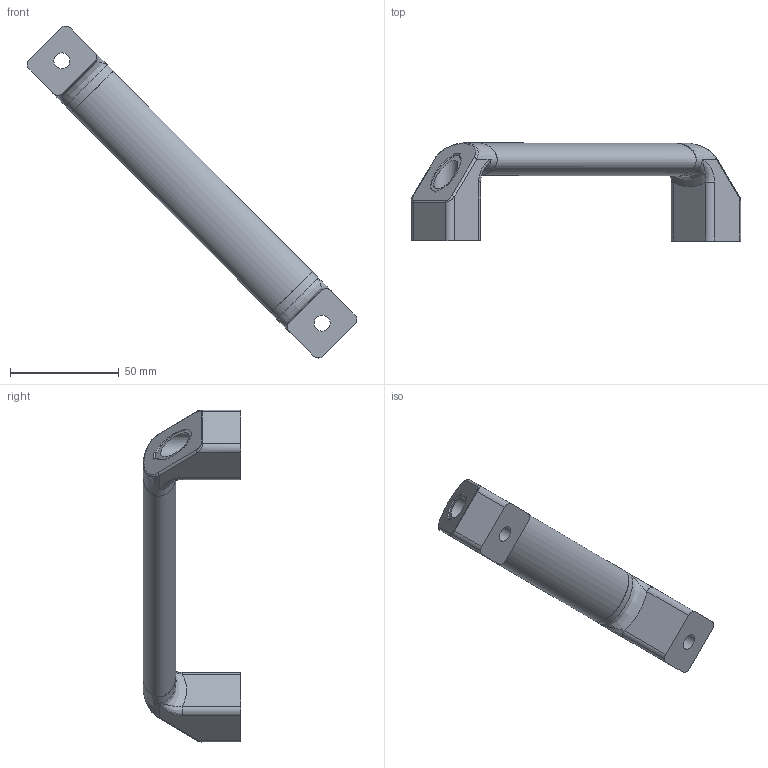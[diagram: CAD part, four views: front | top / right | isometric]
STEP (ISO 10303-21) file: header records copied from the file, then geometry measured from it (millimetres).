
FILE_DESCRIPTION(/* description */ (''),/* implementation_level */ '2;1');
FILE_NAME(/* name */ '\\NAS\db20\A-COVER170\DR_A-COVER170.stp',/* time_stamp */ '2017-07-08T09:27:15+09:00',/* author */ ('user'),/* organization */ (''),/* preprocessor_version */ 'ST-DEVELOPER v15.6',/* originating_system */ 'Autodesk Inventor 2015',/* authorisation */ '');
FILE_SCHEMA (('AUTOMOTIVE_DESIGN { 1 0 10303 214 3 1 1 }'));
Length unit declared in the file: millimetre
Products named in the file (3): A-COVER P; DR_PR_A-COVER170 AL; DR_A-COVER170
Bounding box: 151.73 x 45 x 152.72 mm (x, y, z)
Volume: 55306 mm3; surface area: 29161.6 mm2
Topology: 3 solids, 3 shells, 66 faces, 148 edges, 90 vertices
Faces by surface type: plane 28, cylinder 20, bspline 18
Full cylindrical faces by diameter (mm): 7.3 x2, 11 x2
Entity records: 2293 total; most frequent: CARTESIAN_POINT 1493, DIRECTION 146, ORIENTED_EDGE 144, EDGE_CURVE 72, AXIS2_PLACEMENT_3D 57, VERTEX_POINT 46, EDGE_LOOP 44, FACE_OUTER_BOUND 35
